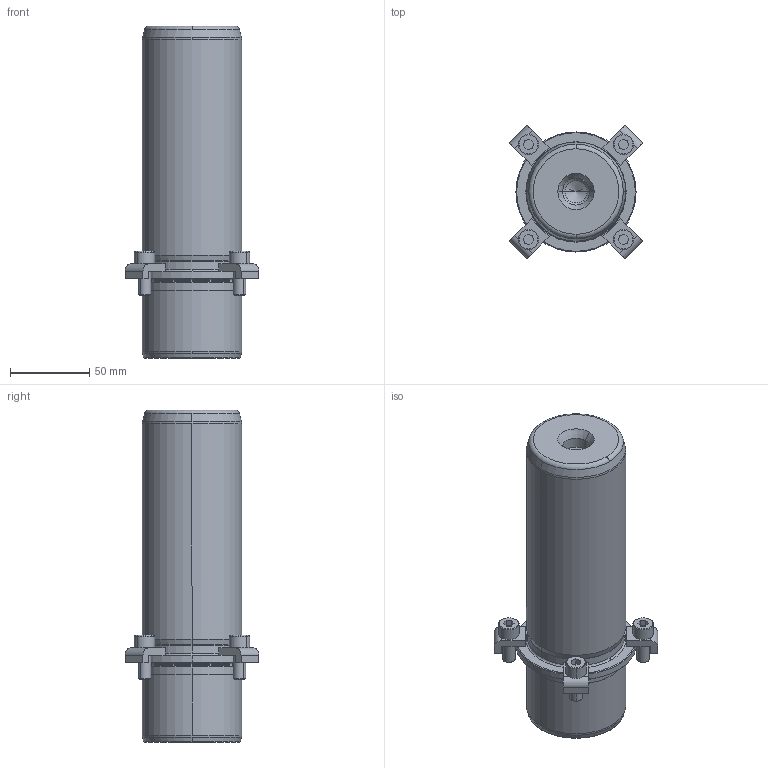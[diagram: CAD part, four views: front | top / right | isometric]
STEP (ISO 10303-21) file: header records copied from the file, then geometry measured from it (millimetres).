
FILE_DESCRIPTION((''),'2;1');
FILE_NAME('P21_063_160.stp','2008-12-23T09:20:43',(''),(''),'Mechanical Desktop 2009','Mechanical Desktop 2009',', , ');
FILE_SCHEMA(('CONFIG_CONTROL_DESIGN'));
Length unit declared in the file: millimetre
Products named in the file (2): Product; blmdl1
Assembly tree (1 placements, depth 2):
  Product
    blmdl1
Bounding box: 84.5 x 84.5 x 210 mm (x, y, z)
Volume: 654003.1 mm3; surface area: 63190.6 mm2
Topology: 9 solids, 9 shells, 195 faces, 477 edges, 309 vertices
Faces by surface type: plane 77, cylinder 52, cone 34, torus 16, bspline 16
Entity records: 6547 total; most frequent: CARTESIAN_POINT 1683, DIRECTION 1078, ORIENTED_EDGE 946, EDGE_CURVE 473, AXIS2_PLACEMENT_3D 424, VERTEX_POINT 309, CIRCLE 243, VECTOR 230
